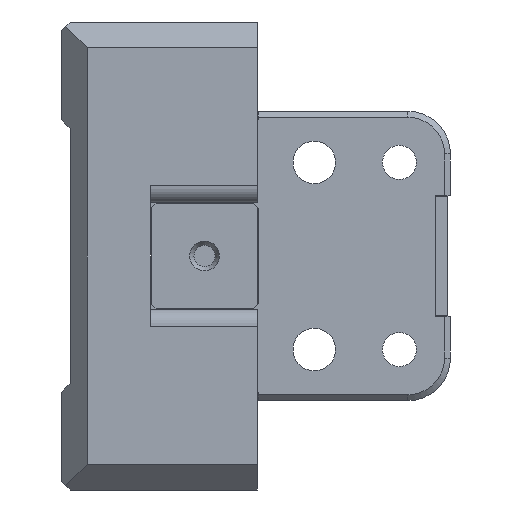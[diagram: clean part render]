
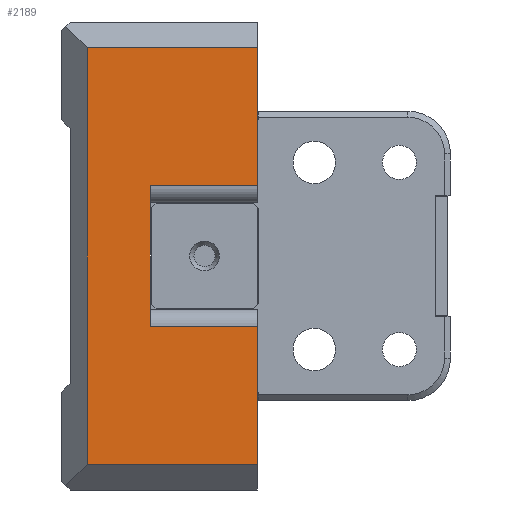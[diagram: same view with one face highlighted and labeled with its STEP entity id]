
A CAD part, left-side view. The second image highlights one B-rep face of the part: STEP entity #2189.
In plain terms, the highlighted planar face has unit normal (-1, 0, 0).
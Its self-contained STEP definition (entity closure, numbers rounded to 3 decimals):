
#47 = ORIENTED_EDGE ( 'NONE', *, *, #1301, .T. ) ;
#71 = CARTESIAN_POINT ( 'NONE',  ( -130., -23., 8.25 ) ) ;
#125 = LINE ( 'NONE', #3494, #2217 ) ;
#261 = VERTEX_POINT ( 'NONE', #1968 ) ;
#290 = ORIENTED_EDGE ( 'NONE', *, *, #3732, .T. ) ;
#318 = ORIENTED_EDGE ( 'NONE', *, *, #931, .F. ) ;
#476 = VECTOR ( 'NONE', #2214, 1000. ) ;
#494 = ORIENTED_EDGE ( 'NONE', *, *, #4948, .T. ) ;
#546 = CARTESIAN_POINT ( 'NONE',  ( -130., -23., -24.5 ) ) ;
#553 = DIRECTION ( 'NONE',  ( 0., 0., -1. ) ) ;
#636 = LINE ( 'NONE', #5076, #3731 ) ;
#768 = CARTESIAN_POINT ( 'NONE',  ( -130., -10.4, -8.25 ) ) ;
#891 = CARTESIAN_POINT ( 'NONE',  ( -130., -3., 24.5 ) ) ;
#931 = EDGE_CURVE ( 'NONE', #4119, #2086, #3769, .T. ) ;
#1086 = EDGE_CURVE ( 'NONE', #2086, #261, #2971, .T. ) ;
#1195 = AXIS2_PLACEMENT_3D ( 'NONE', #4860, #5287, #2803 ) ;
#1244 = ORIENTED_EDGE ( 'NONE', *, *, #3482, .T. ) ;
#1265 = VECTOR ( 'NONE', #3111, 1000. ) ;
#1301 = EDGE_CURVE ( 'NONE', #1747, #261, #1915, .T. ) ;
#1321 = CARTESIAN_POINT ( 'NONE',  ( -130., -10.4, -8.25 ) ) ;
#1344 = DIRECTION ( 'NONE',  ( 0., -1., 0. ) ) ;
#1458 = CARTESIAN_POINT ( 'NONE',  ( -130., -23., 24.5 ) ) ;
#1544 = VECTOR ( 'NONE', #1722, 1000. ) ;
#1603 = CARTESIAN_POINT ( 'NONE',  ( -130., -23., -24.5 ) ) ;
#1710 = ORIENTED_EDGE ( 'NONE', *, *, #1972, .T. ) ;
#1722 = DIRECTION ( 'NONE',  ( 0., 0., -1. ) ) ;
#1747 = VERTEX_POINT ( 'NONE', #1603 ) ;
#1853 = VECTOR ( 'NONE', #3277, 1000. ) ;
#1915 = LINE ( 'NONE', #2164, #2906 ) ;
#1968 = CARTESIAN_POINT ( 'NONE',  ( -130., -23., -8.25 ) ) ;
#1969 = EDGE_CURVE ( 'NONE', #2484, #4337, #5402, .T. ) ;
#1972 = EDGE_CURVE ( 'NONE', #4615, #3805, #125, .T. ) ;
#2086 = VERTEX_POINT ( 'NONE', #4431 ) ;
#2164 = CARTESIAN_POINT ( 'NONE',  ( -130., -23., -27.5 ) ) ;
#2189 = ADVANCED_FACE ( 'NONE', ( #4368 ), #2371, .T. ) ;
#2214 = DIRECTION ( 'NONE',  ( 0., -1., 0. ) ) ;
#2217 = VECTOR ( 'NONE', #3912, 1000. ) ;
#2228 = ORIENTED_EDGE ( 'NONE', *, *, #1969, .T. ) ;
#2371 = PLANE ( 'NONE',  #1195 ) ;
#2484 = VERTEX_POINT ( 'NONE', #891 ) ;
#2803 = DIRECTION ( 'NONE',  ( 0., 0., 1. ) ) ;
#2844 = CARTESIAN_POINT ( 'NONE',  ( -130., -3., -24.5 ) ) ;
#2906 = VECTOR ( 'NONE', #4651, 1000. ) ;
#2971 = LINE ( 'NONE', #768, #1853 ) ;
#3111 = DIRECTION ( 'NONE',  ( 0., 1., 0. ) ) ;
#3277 = DIRECTION ( 'NONE',  ( 0., -1., 0. ) ) ;
#3482 = EDGE_CURVE ( 'NONE', #4337, #1747, #4785, .T. ) ;
#3494 = CARTESIAN_POINT ( 'NONE',  ( -130., -23., -27.5 ) ) ;
#3496 = LINE ( 'NONE', #1458, #1265 ) ;
#3731 = VECTOR ( 'NONE', #1344, 1000. ) ;
#3732 = EDGE_CURVE ( 'NONE', #3805, #2484, #3496, .T. ) ;
#3769 = LINE ( 'NONE', #1321, #1544 ) ;
#3784 = ORIENTED_EDGE ( 'NONE', *, *, #1086, .F. ) ;
#3805 = VERTEX_POINT ( 'NONE', #4809 ) ;
#3912 = DIRECTION ( 'NONE',  ( 0., 0., 1. ) ) ;
#4119 = VERTEX_POINT ( 'NONE', #4504 ) ;
#4308 = VECTOR ( 'NONE', #553, 1000. ) ;
#4337 = VERTEX_POINT ( 'NONE', #2844 ) ;
#4368 = FACE_OUTER_BOUND ( 'NONE', #4420, .T. ) ;
#4420 = EDGE_LOOP ( 'NONE', ( #2228, #1244, #47, #3784, #318, #494, #1710, #290 ) ) ;
#4431 = CARTESIAN_POINT ( 'NONE',  ( -130., -10.4, -8.25 ) ) ;
#4504 = CARTESIAN_POINT ( 'NONE',  ( -130., -10.4, 8.25 ) ) ;
#4615 = VERTEX_POINT ( 'NONE', #71 ) ;
#4651 = DIRECTION ( 'NONE',  ( 0., 0., 1. ) ) ;
#4709 = CARTESIAN_POINT ( 'NONE',  ( -130., -3., -27.5 ) ) ;
#4785 = LINE ( 'NONE', #546, #476 ) ;
#4809 = CARTESIAN_POINT ( 'NONE',  ( -130., -23., 24.5 ) ) ;
#4860 = CARTESIAN_POINT ( 'NONE',  ( -130., -23., -27.5 ) ) ;
#4948 = EDGE_CURVE ( 'NONE', #4119, #4615, #636, .T. ) ;
#5076 = CARTESIAN_POINT ( 'NONE',  ( -130., -10.4, 8.25 ) ) ;
#5287 = DIRECTION ( 'NONE',  ( -1., 0., 0. ) ) ;
#5402 = LINE ( 'NONE', #4709, #4308 ) ;
